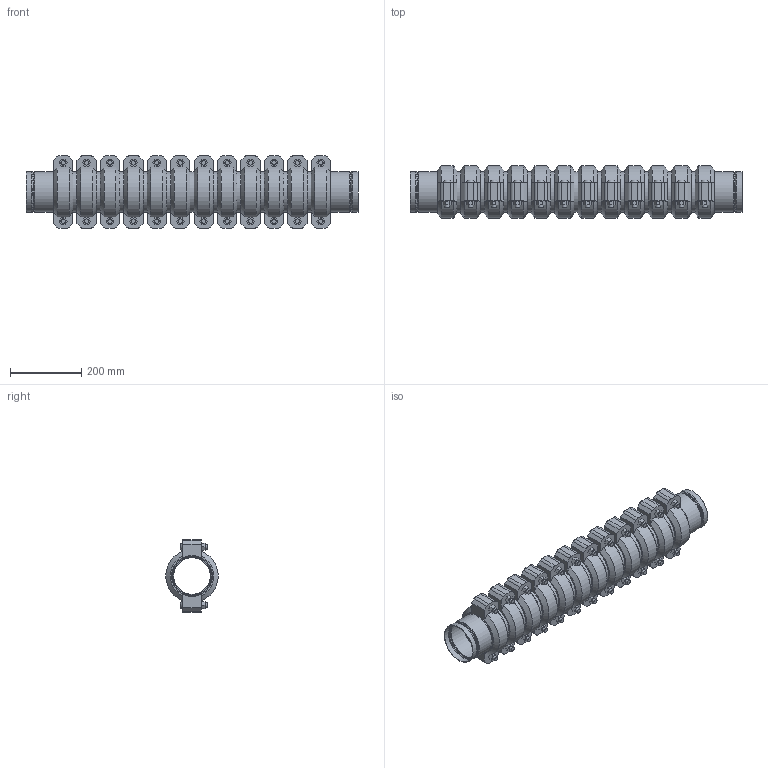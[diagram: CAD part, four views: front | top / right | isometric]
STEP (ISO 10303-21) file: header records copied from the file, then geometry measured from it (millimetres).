
FILE_DESCRIPTION(/* description */ ('VIC STRENGTHIN 100 EXPANSION JOINT 12 COUPLINGS NEUTRAL STYLE E155 (ST1)','CAx-IF Rec.Pracs.---Representation and Presentation of Product Manufacturing Information (PMI)---4.0---2014-10-13'),/* implementation_level */ '2;1');
FILE_NAME(/* name */ 'C:\Users\Vjadhav\AppData\Roaming\Autodesk\ApplicationPlugins\Victaulic.Temp\A29\Victaulic_SS-StrengThin 100_Expansion Joint_Neutral_12 Couplings_Style E155 (ST1)_12 Coup_Neut_4 (100).stp',/* time_stamp */ '2021-07-20T17:42:26+05:00',/* author */ ('kkamble'),/* organization */ ('Victaulic'),/* preprocessor_version */ 'ST-DEVELOPER v17.2',/* originating_system */ 'Autodesk Inventor 2019',/* authorisation */ '');
FILE_SCHEMA (('AP242_MANAGED_MODEL_BASED_3D_ENGINEERING_MIM_LF { 1 0 10303 442 1 1 4 }'));
Length unit declared in the file: inch
Products named in the file (4): E155-04.0; E494G-04.0; Nipple-04.0; 075-04.0
Assembly tree (25 placements, depth 2):
  E155-04.0
    E494G-04.0  x2
    Nipple-04.0  x11
    075-04.0  x12
Bounding box: 930.91 x 147.32 x 203.96 mm (x, y, z)
Volume: 7119221.4 mm3; surface area: 1616255 mm2
Topology: 25 solids, 49 shells, 884 faces, 2148 edges, 1510 vertices
Faces by surface type: plane 510, cylinder 266, cone 52, torus 32, bspline 24
Full cylindrical faces by diameter (mm): 12.7 x48, 14.605 x24, 102.26 x11, 105.639 x2, 106.883 x2, 107.95 x12, 108.839 x2, 110.084 x24, 111.1 x6, 114.3 x63
Entity records: 3862 total; most frequent: DIRECTION 693, CARTESIAN_POINT 671, ORIENTED_EDGE 548, AXIS2_PLACEMENT_3D 297, EDGE_CURVE 274, VERTEX_POINT 197, CIRCLE 167, EDGE_LOOP 129
